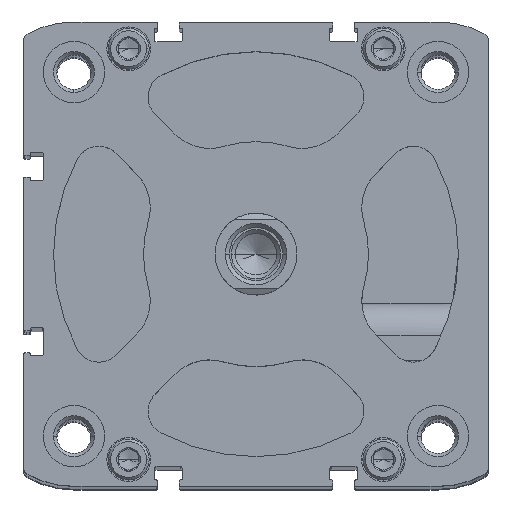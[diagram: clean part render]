
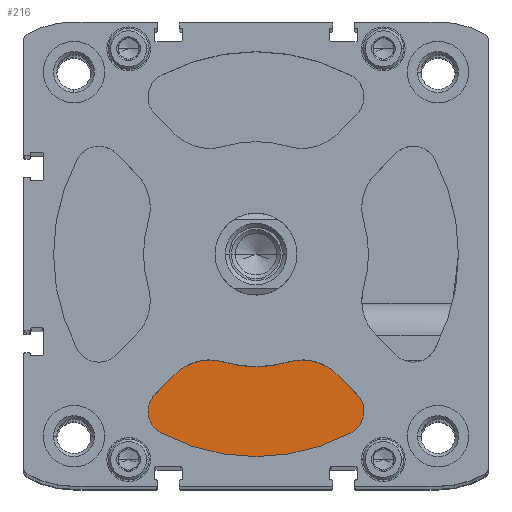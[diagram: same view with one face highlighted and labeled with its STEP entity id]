
A CAD part, top view. The second image highlights one B-rep face of the part: STEP entity #216.
In plain terms, the highlighted planar face has unit normal (0, 0, 1).
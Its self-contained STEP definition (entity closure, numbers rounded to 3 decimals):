
#216 = ADVANCED_FACE ( 'NONE', ( #18155 ), #5520, .T. ) ;
#560 = VERTEX_POINT ( 'NONE', #12054 ) ;
#685 = AXIS2_PLACEMENT_3D ( 'NONE', #18441, #8806, #15075 ) ;
#706 = CARTESIAN_POINT ( 'NONE',  ( -26.393, -38.424, -18.8 ) ) ;
#913 = DIRECTION ( 'NONE',  ( -1., 0., 0. ) ) ;
#992 = DIRECTION ( 'NONE',  ( 0., 0., 1. ) ) ;
#1187 = CARTESIAN_POINT ( 'NONE',  ( -24.635, -34.181, -18.8 ) ) ;
#1337 = CIRCLE ( 'NONE', #685, 6. ) ;
#1654 = DIRECTION ( 'NONE',  ( 0., 0., 1. ) ) ;
#2218 = EDGE_CURVE ( 'NONE', #17368, #4826, #15674, .T. ) ;
#2328 = EDGE_CURVE ( 'NONE', #6563, #3896, #18623, .T. ) ;
#2405 = VECTOR ( 'NONE', #11894, 1000. ) ;
#2507 = CARTESIAN_POINT ( 'NONE',  ( 7.885, -26.345, -18.8 ) ) ;
#2807 = VECTOR ( 'NONE', #5995, 1000. ) ;
#3896 = VERTEX_POINT ( 'NONE', #706 ) ;
#4063 = DIRECTION ( 'NONE',  ( 1., 0., 0. ) ) ;
#4173 = LINE ( 'NONE', #15089, #2405 ) ;
#4186 = CARTESIAN_POINT ( 'NONE',  ( -19.81, -29.356, -18.8 ) ) ;
#4475 = ORIENTED_EDGE ( 'NONE', *, *, #16467, .T. ) ;
#4476 = CARTESIAN_POINT ( 'NONE',  ( -7.885, -26.345, -18.8 ) ) ;
#4728 = CARTESIAN_POINT ( 'NONE',  ( 0., 0., -18.8 ) ) ;
#4826 = VERTEX_POINT ( 'NONE', #2507 ) ;
#5447 = ORIENTED_EDGE ( 'NONE', *, *, #2328, .T. ) ;
#5454 = CARTESIAN_POINT ( 'NONE',  ( -20.393, -38.424, -18.8 ) ) ;
#5520 = PLANE ( 'NONE',  #14918 ) ;
#5995 = DIRECTION ( 'NONE',  ( -0.707, 0.707, 0. ) ) ;
#6313 = VERTEX_POINT ( 'NONE', #11185 ) ;
#6563 = VERTEX_POINT ( 'NONE', #1187 ) ;
#7126 = DIRECTION ( 'NONE',  ( -1., 0., 0. ) ) ;
#7224 = DIRECTION ( 'NONE',  ( 0., 0., 1. ) ) ;
#7798 = AXIS2_PLACEMENT_3D ( 'NONE', #5454, #16148, #11742 ) ;
#8345 = EDGE_CURVE ( 'NONE', #6313, #4826, #19630, .T. ) ;
#8806 = DIRECTION ( 'NONE',  ( 0., 0., 1. ) ) ;
#8824 = CARTESIAN_POINT ( 'NONE',  ( 0., 0., -18.8 ) ) ;
#8834 = DIRECTION ( 'NONE',  ( 0., 0., 1. ) ) ;
#8962 = ORIENTED_EDGE ( 'NONE', *, *, #2218, .F. ) ;
#9150 = ORIENTED_EDGE ( 'NONE', *, *, #13140, .T. ) ;
#9301 = CIRCLE ( 'NONE', #19787, 6. ) ;
#10382 = EDGE_LOOP ( 'NONE', ( #15511, #11051, #4475, #15757, #8962, #14025, #15207, #5447, #9150 ) ) ;
#10909 = EDGE_CURVE ( 'NONE', #560, #20067, #1337, .T. ) ;
#11051 = ORIENTED_EDGE ( 'NONE', *, *, #10909, .T. ) ;
#11185 = CARTESIAN_POINT ( 'NONE',  ( 19.81, -29.356, -18.8 ) ) ;
#11557 = CARTESIAN_POINT ( 'NONE',  ( 11.325, -37.842, -18.8 ) ) ;
#11561 = DIRECTION ( 'NONE',  ( -1., 0., 0. ) ) ;
#11742 = DIRECTION ( 'NONE',  ( -1., 0., 0. ) ) ;
#11790 = CARTESIAN_POINT ( 'NONE',  ( 24.635, -34.181, -18.8 ) ) ;
#11894 = DIRECTION ( 'NONE',  ( -0.707, -0.707, 0. ) ) ;
#12054 = CARTESIAN_POINT ( 'NONE',  ( 23.205, -43.724, -18.8 ) ) ;
#12658 = DIRECTION ( 'NONE',  ( -1., 0., 0. ) ) ;
#13092 = CARTESIAN_POINT ( 'NONE',  ( -11.325, -37.842, -18.8 ) ) ;
#13140 = EDGE_CURVE ( 'NONE', #3896, #19036, #9301, .T. ) ;
#13401 = AXIS2_PLACEMENT_3D ( 'NONE', #11557, #7224, #7126 ) ;
#13415 = EDGE_CURVE ( 'NONE', #18516, #6563, #4173, .T. ) ;
#13422 = EDGE_CURVE ( 'NONE', #19036, #560, #16189, .T. ) ;
#13713 = CIRCLE ( 'NONE', #18288, 12. ) ;
#13846 = DIRECTION ( 'NONE',  ( -1., 0., 0. ) ) ;
#13931 = CARTESIAN_POINT ( 'NONE',  ( -23.205, -43.724, -18.8 ) ) ;
#14025 = ORIENTED_EDGE ( 'NONE', *, *, #19304, .T. ) ;
#14918 = AXIS2_PLACEMENT_3D ( 'NONE', #8824, #19601, #4063 ) ;
#15075 = DIRECTION ( 'NONE',  ( -1., 0., 0. ) ) ;
#15089 = CARTESIAN_POINT ( 'NONE',  ( -19.81, -29.356, -18.8 ) ) ;
#15207 = ORIENTED_EDGE ( 'NONE', *, *, #13415, .T. ) ;
#15463 = LINE ( 'NONE', #16800, #2807 ) ;
#15511 = ORIENTED_EDGE ( 'NONE', *, *, #13422, .T. ) ;
#15674 = CIRCLE ( 'NONE', #16984, 27.5 ) ;
#15757 = ORIENTED_EDGE ( 'NONE', *, *, #8345, .T. ) ;
#16148 = DIRECTION ( 'NONE',  ( 0., 0., 1. ) ) ;
#16189 = CIRCLE ( 'NONE', #17178, 49.5 ) ;
#16329 = CARTESIAN_POINT ( 'NONE',  ( -20.393, -38.424, -18.8 ) ) ;
#16467 = EDGE_CURVE ( 'NONE', #20067, #6313, #15463, .T. ) ;
#16620 = CARTESIAN_POINT ( 'NONE',  ( 0., 0., -18.8 ) ) ;
#16800 = CARTESIAN_POINT ( 'NONE',  ( 24.635, -34.181, -18.8 ) ) ;
#16984 = AXIS2_PLACEMENT_3D ( 'NONE', #4728, #1654, #12658 ) ;
#17178 = AXIS2_PLACEMENT_3D ( 'NONE', #16620, #992, #13846 ) ;
#17368 = VERTEX_POINT ( 'NONE', #4476 ) ;
#18155 = FACE_OUTER_BOUND ( 'NONE', #10382, .T. ) ;
#18288 = AXIS2_PLACEMENT_3D ( 'NONE', #13092, #19361, #11561 ) ;
#18441 = CARTESIAN_POINT ( 'NONE',  ( 20.393, -38.424, -18.8 ) ) ;
#18516 = VERTEX_POINT ( 'NONE', #4186 ) ;
#18623 = CIRCLE ( 'NONE', #7798, 6. ) ;
#19036 = VERTEX_POINT ( 'NONE', #13931 ) ;
#19304 = EDGE_CURVE ( 'NONE', #17368, #18516, #13713, .T. ) ;
#19361 = DIRECTION ( 'NONE',  ( 0., 0., 1. ) ) ;
#19601 = DIRECTION ( 'NONE',  ( 0., 0., 1. ) ) ;
#19630 = CIRCLE ( 'NONE', #13401, 12. ) ;
#19787 = AXIS2_PLACEMENT_3D ( 'NONE', #16329, #8834, #913 ) ;
#20067 = VERTEX_POINT ( 'NONE', #11790 ) ;
